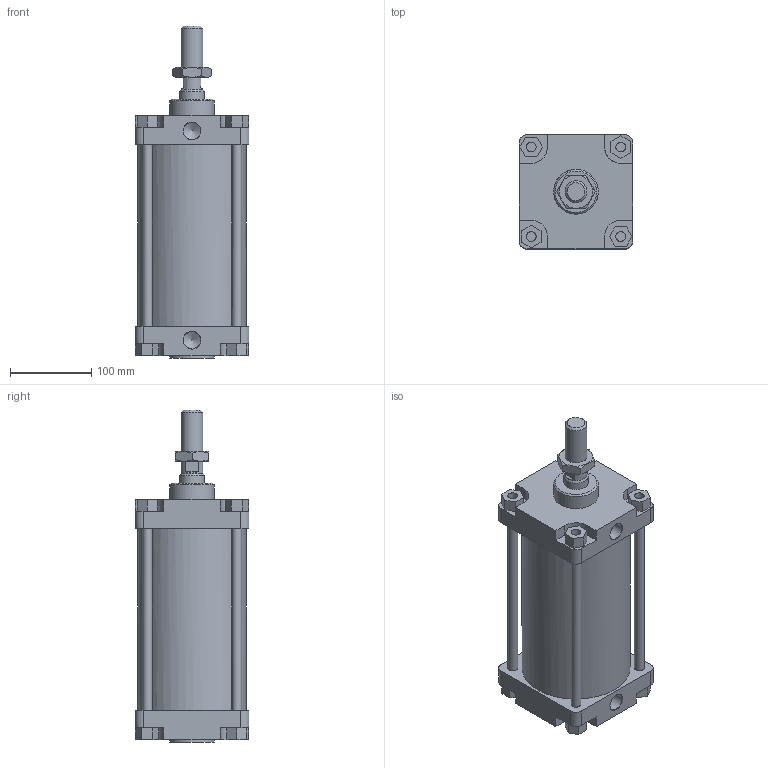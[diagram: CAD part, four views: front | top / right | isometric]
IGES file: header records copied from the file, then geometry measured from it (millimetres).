
Global section: file name: 1303_125_0150_01A; native system: Autodesk Inventor 2014; preprocessor: unknown; author: A. Manieri; date: 20161124.141516; units: millimetre
Bounding box: 140 x 140 x 408 mm (x, y, z)
Volume: 2870639.6 mm3; surface area: 448581.7 mm2
Topology: 9 solids, 9 shells, 175 faces, 440 edges, 295 vertices
Faces by surface type: bspline 175
